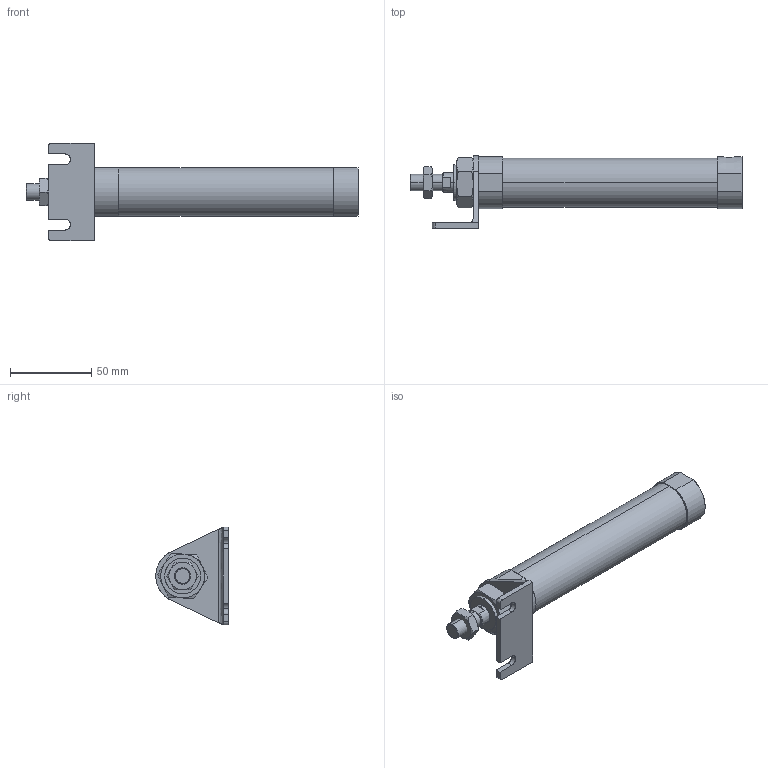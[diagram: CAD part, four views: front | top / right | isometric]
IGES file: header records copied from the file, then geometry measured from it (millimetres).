
Start section: SolidWorks IGES file using analytic representation for surfaces
Global section: file name: C:\Users\Toshiba\Desktop\JGND1-25-50-L.IGS; native system: SolidWorks 2014; preprocessor: SolidWorks 2014; author: Toshiba; date: 160804.101842; units: millimetre
Bounding box: 204 x 44.5 x 60 mm (x, y, z)
Surface area: 29227.9 mm2 (no closed solid volume)
Topology: 0 solids, 0 shells, 111 faces, 1846 edges, 1844 vertices
Faces by surface type: bspline 74, revolution 37
